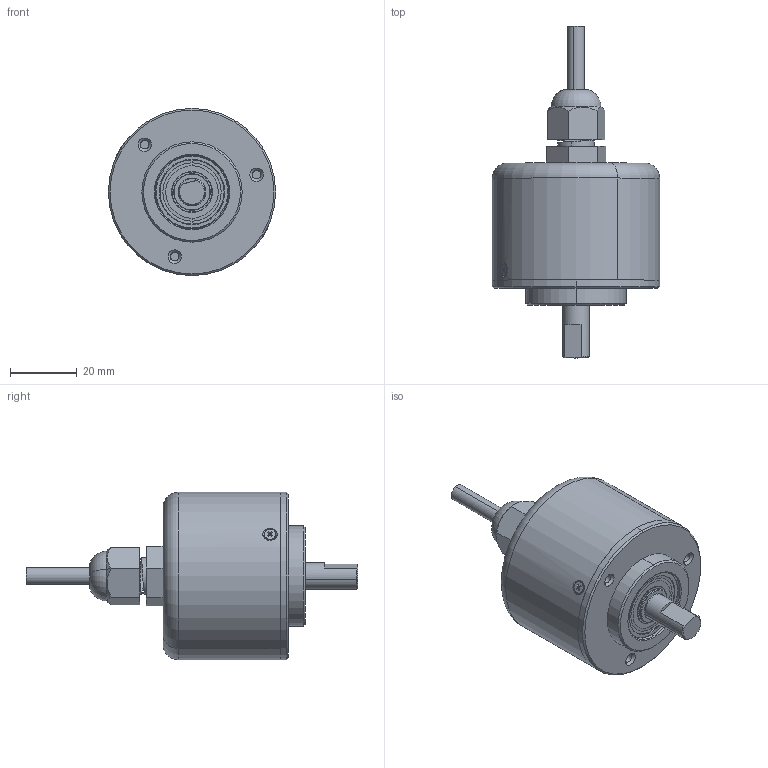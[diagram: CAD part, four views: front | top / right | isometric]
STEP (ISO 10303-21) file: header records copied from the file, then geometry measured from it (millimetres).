
FILE_DESCRIPTION (( 'STEP AP214' ), '1' );
FILE_NAME ('50款编码器DOV5.STEP', '2022-11-16T02:41:43', ( '' ), ( '' ), 'SwSTEP 2.0', 'SolidWorks 2016', '' );
FILE_SCHEMA (( 'AUTOMOTIVE_DESIGN' ));
Length unit declared in the file: millimetre
Products named in the file (1): 50遴晤鎢んDOV5
Bounding box: 50 x 99.3 x 50 mm (x, y, z)
Surface area: 12816.3 mm2 (no closed solid volume)
Topology: 0 solids, 15 shells, 149 faces, 396 edges, 264 vertices
Faces by surface type: plane 58, cylinder 48, cone 29, torus 14
Entity records: 7281 total; most frequent: CARTESIAN_POINT 1996, DIRECTION 794, ORIENTED_EDGE 688, EDGE_CURVE 396, AXIS2_PLACEMENT_3D 304, VERTEX_POINT 264, VECTOR 186, LINE 186
